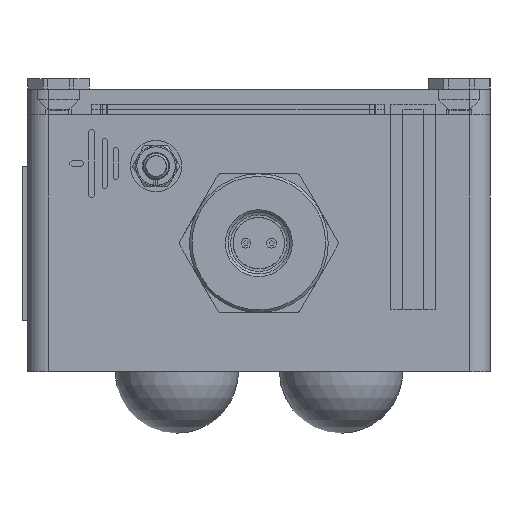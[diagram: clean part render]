
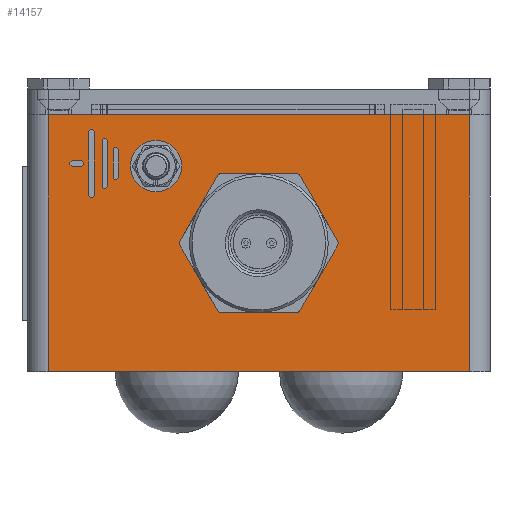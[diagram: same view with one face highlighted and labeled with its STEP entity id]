
A CAD part, left-side view. The second image highlights one B-rep face of the part: STEP entity #14157.
In plain terms, the highlighted planar face has unit normal (-1, 0, 0).
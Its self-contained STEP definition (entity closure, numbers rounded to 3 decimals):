
#653=LINE('',#21322,#1671);
#661=LINE('',#21408,#1679);
#664=LINE('',#21415,#1682);
#667=LINE('',#21427,#1685);
#671=LINE('',#21438,#1689);
#677=LINE('',#21458,#1695);
#680=LINE('',#21465,#1698);
#681=LINE('',#21469,#1699);
#686=LINE('',#21483,#1704);
#737=LINE('',#21710,#1755);
#747=LINE('',#21737,#1765);
#748=LINE('',#21739,#1766);
#1671=VECTOR('',#16797,82.);
#1679=VECTOR('',#16881,12.409);
#1682=VECTOR('',#16890,12.409);
#1685=VECTOR('',#16901,1.865);
#1689=VECTOR('',#16913,1.865);
#1695=VECTOR('',#16933,5.437);
#1698=VECTOR('',#16942,5.437);
#1699=VECTOR('',#16945,8.987);
#1704=VECTOR('',#16958,8.987);
#1755=VECTOR('',#17231,50.);
#1765=VECTOR('',#17261,50.);
#1766=VECTOR('',#17264,82.);
#3186=FACE_BOUND('',#5376,.T.);
#3187=FACE_BOUND('',#5377,.T.);
#3188=FACE_BOUND('',#5378,.T.);
#3189=FACE_BOUND('',#5379,.T.);
#3190=FACE_BOUND('',#5380,.T.);
#3191=FACE_BOUND('',#5381,.T.);
#3786=PLANE('',#15239);
#4381=FACE_OUTER_BOUND('',#5375,.T.);
#5375=EDGE_LOOP('',(#11002,#11003,#11004,#11005));
#5376=EDGE_LOOP('',(#11006,#11007,#11008,#11009));
#5377=EDGE_LOOP('',(#11010,#11011,#11012,#11013));
#5378=EDGE_LOOP('',(#11014,#11015,#11016,#11017));
#5379=EDGE_LOOP('',(#11018,#11019,#11020,#11021));
#5380=EDGE_LOOP('',(#11022));
#5381=EDGE_LOOP('',(#11023));
#6380=CIRCLE('',#15090,0.5);
#6381=CIRCLE('',#15093,0.5);
#6382=CIRCLE('',#15096,0.5);
#6384=CIRCLE('',#15100,0.5);
#6388=CIRCLE('',#15108,0.5);
#6389=CIRCLE('',#15111,0.5);
#6390=CIRCLE('',#15115,0.5);
#6392=CIRCLE('',#15119,0.5);
#6398=CIRCLE('',#15131,2.067);
#6399=CIRCLE('',#15133,10.5);
#7068=VERTEX_POINT('',#21320);
#7069=VERTEX_POINT('',#21321);
#7107=VERTEX_POINT('',#21401);
#7108=VERTEX_POINT('',#21402);
#7109=VERTEX_POINT('',#21407);
#7110=VERTEX_POINT('',#21411);
#7111=VERTEX_POINT('',#21417);
#7112=VERTEX_POINT('',#21418);
#7115=VERTEX_POINT('',#21426);
#7117=VERTEX_POINT('',#21432);
#7123=VERTEX_POINT('',#21451);
#7124=VERTEX_POINT('',#21452);
#7125=VERTEX_POINT('',#21457);
#7126=VERTEX_POINT('',#21461);
#7127=VERTEX_POINT('',#21467);
#7128=VERTEX_POINT('',#21468);
#7131=VERTEX_POINT('',#21476);
#7133=VERTEX_POINT('',#21482);
#7139=VERTEX_POINT('',#21504);
#7140=VERTEX_POINT('',#21507);
#7198=VERTEX_POINT('',#21709);
#7205=VERTEX_POINT('',#21735);
#8496=EDGE_CURVE('',#7068,#7069,#653,.T.);
#8535=EDGE_CURVE('',#7107,#7108,#6380,.T.);
#8538=EDGE_CURVE('',#7108,#7109,#661,.T.);
#8540=EDGE_CURVE('',#7109,#7110,#6381,.T.);
#8542=EDGE_CURVE('',#7110,#7107,#664,.T.);
#8543=EDGE_CURVE('',#7111,#7112,#6382,.T.);
#8547=EDGE_CURVE('',#7115,#7111,#667,.T.);
#8550=EDGE_CURVE('',#7117,#7115,#6384,.T.);
#8553=EDGE_CURVE('',#7112,#7117,#671,.T.);
#8559=EDGE_CURVE('',#7123,#7124,#6388,.T.);
#8562=EDGE_CURVE('',#7124,#7125,#677,.T.);
#8564=EDGE_CURVE('',#7125,#7126,#6389,.T.);
#8566=EDGE_CURVE('',#7126,#7123,#680,.T.);
#8567=EDGE_CURVE('',#7127,#7128,#681,.T.);
#8571=EDGE_CURVE('',#7131,#7127,#6390,.T.);
#8574=EDGE_CURVE('',#7133,#7131,#686,.T.);
#8577=EDGE_CURVE('',#7128,#7133,#6392,.T.);
#8583=EDGE_CURVE('',#7139,#7139,#6398,.T.);
#8584=EDGE_CURVE('',#7140,#7140,#6399,.T.);
#8666=EDGE_CURVE('',#7068,#7198,#737,.T.);
#8680=EDGE_CURVE('',#7069,#7205,#747,.T.);
#8681=EDGE_CURVE('',#7198,#7205,#748,.T.);
#11002=ORIENTED_EDGE('',*,*,#8496,.T.);
#11003=ORIENTED_EDGE('',*,*,#8680,.T.);
#11004=ORIENTED_EDGE('',*,*,#8681,.F.);
#11005=ORIENTED_EDGE('',*,*,#8666,.F.);
#11006=ORIENTED_EDGE('',*,*,#8535,.T.);
#11007=ORIENTED_EDGE('',*,*,#8538,.T.);
#11008=ORIENTED_EDGE('',*,*,#8540,.T.);
#11009=ORIENTED_EDGE('',*,*,#8542,.T.);
#11010=ORIENTED_EDGE('',*,*,#8543,.T.);
#11011=ORIENTED_EDGE('',*,*,#8553,.T.);
#11012=ORIENTED_EDGE('',*,*,#8550,.T.);
#11013=ORIENTED_EDGE('',*,*,#8547,.T.);
#11014=ORIENTED_EDGE('',*,*,#8559,.T.);
#11015=ORIENTED_EDGE('',*,*,#8562,.T.);
#11016=ORIENTED_EDGE('',*,*,#8564,.T.);
#11017=ORIENTED_EDGE('',*,*,#8566,.T.);
#11018=ORIENTED_EDGE('',*,*,#8567,.T.);
#11019=ORIENTED_EDGE('',*,*,#8577,.T.);
#11020=ORIENTED_EDGE('',*,*,#8574,.T.);
#11021=ORIENTED_EDGE('',*,*,#8571,.T.);
#11022=ORIENTED_EDGE('',*,*,#8583,.T.);
#11023=ORIENTED_EDGE('',*,*,#8584,.T.);
#14157=ADVANCED_FACE('',(#4381,#3186,#3187,#3188,#3189,#3190,#3191),#3786,
 .T.);
#15090=AXIS2_PLACEMENT_3D('',#21403,#16875,#16876);
#15093=AXIS2_PLACEMENT_3D('',#21412,#16885,#16886);
#15096=AXIS2_PLACEMENT_3D('',#21419,#16893,#16894);
#15100=AXIS2_PLACEMENT_3D('',#21433,#16906,#16907);
#15108=AXIS2_PLACEMENT_3D('',#21453,#16927,#16928);
#15111=AXIS2_PLACEMENT_3D('',#21462,#16937,#16938);
#15115=AXIS2_PLACEMENT_3D('',#21477,#16951,#16952);
#15119=AXIS2_PLACEMENT_3D('',#21488,#16963,#16964);
#15131=AXIS2_PLACEMENT_3D('',#21505,#16987,#16988);
#15133=AXIS2_PLACEMENT_3D('',#21508,#16991,#16992);
#15239=AXIS2_PLACEMENT_3D('',#21738,#17262,#17263);
#16797=DIRECTION('',(0.,-1.,0.));
#16875=DIRECTION('center_axis',(1.,0.,0.));
#16876=DIRECTION('ref_axis',(0.,-1.,0.));
#16881=DIRECTION('',(0.,0.,1.));
#16885=DIRECTION('center_axis',(1.,0.,0.));
#16886=DIRECTION('ref_axis',(0.,1.,0.));
#16890=DIRECTION('',(0.,0.,-1.));
#16893=DIRECTION('center_axis',(1.,0.,0.));
#16894=DIRECTION('ref_axis',(0.,0.,1.));
#16901=DIRECTION('',(0.,-1.,0.));
#16906=DIRECTION('center_axis',(1.,0.,0.));
#16907=DIRECTION('ref_axis',(0.,0.,-1.));
#16913=DIRECTION('',(0.,1.,0.));
#16927=DIRECTION('center_axis',(1.,0.,0.));
#16928=DIRECTION('ref_axis',(0.,1.,0.));
#16933=DIRECTION('',(0.,0.,1.));
#16937=DIRECTION('center_axis',(1.,0.,0.));
#16938=DIRECTION('ref_axis',(0.,-1.,0.));
#16942=DIRECTION('',(0.,0.,-1.));
#16945=DIRECTION('',(0.,0.,-1.));
#16951=DIRECTION('center_axis',(1.,0.,0.));
#16952=DIRECTION('ref_axis',(0.,-1.,0.));
#16958=DIRECTION('',(0.,0.,1.));
#16963=DIRECTION('center_axis',(1.,0.,0.));
#16964=DIRECTION('ref_axis',(0.,1.,0.));
#16987=DIRECTION('center_axis',(1.,0.,0.));
#16988=DIRECTION('ref_axis',(0.,0.,1.));
#16991=DIRECTION('center_axis',(1.,0.,0.));
#16992=DIRECTION('ref_axis',(0.,0.,-1.));
#17231=DIRECTION('',(0.,0.,1.));
#17261=DIRECTION('',(0.,0.,1.));
#17262=DIRECTION('center_axis',(-1.,0.,0.));
#17263=DIRECTION('ref_axis',(0.,-1.,0.));
#17264=DIRECTION('',(0.,-1.,0.));
#21320=CARTESIAN_POINT('',(-57.5,41.,0.));
#21321=CARTESIAN_POINT('',(-57.5,-41.,0.));
#21322=CARTESIAN_POINT('',(-57.5,41.,0.));
#21401=CARTESIAN_POINT('',(-57.5,32.077,34.295));
#21402=CARTESIAN_POINT('',(-57.5,33.077,34.295));
#21403=CARTESIAN_POINT('Origin',(-57.5,32.577,34.295));
#21407=CARTESIAN_POINT('',(-57.5,33.077,46.705));
#21408=CARTESIAN_POINT('',(-57.5,33.077,17.148));
#21411=CARTESIAN_POINT('',(-57.5,32.077,46.705));
#21412=CARTESIAN_POINT('Origin',(-57.5,32.577,46.705));
#21415=CARTESIAN_POINT('',(-57.5,32.077,23.352));
#21417=CARTESIAN_POINT('',(-57.5,34.473,41.));
#21418=CARTESIAN_POINT('',(-57.5,34.473,40.));
#21419=CARTESIAN_POINT('Origin',(-57.5,34.473,40.5));
#21426=CARTESIAN_POINT('',(-57.5,36.338,41.));
#21427=CARTESIAN_POINT('',(-57.5,38.669,41.));
#21432=CARTESIAN_POINT('',(-57.5,36.338,40.));
#21433=CARTESIAN_POINT('Origin',(-57.5,36.338,40.5));
#21438=CARTESIAN_POINT('',(-57.5,37.736,40.));
#21451=CARTESIAN_POINT('',(-57.5,27.377,37.782));
#21452=CARTESIAN_POINT('',(-57.5,28.377,37.782));
#21453=CARTESIAN_POINT('Origin',(-57.5,27.877,37.782));
#21457=CARTESIAN_POINT('',(-57.5,28.377,43.218));
#21458=CARTESIAN_POINT('',(-57.5,28.377,18.891));
#21461=CARTESIAN_POINT('',(-57.5,27.377,43.218));
#21462=CARTESIAN_POINT('Origin',(-57.5,27.877,43.218));
#21465=CARTESIAN_POINT('',(-57.5,27.377,21.609));
#21467=CARTESIAN_POINT('',(-57.5,29.52,44.994));
#21468=CARTESIAN_POINT('',(-57.5,29.52,36.006));
#21469=CARTESIAN_POINT('',(-57.5,29.52,22.497));
#21476=CARTESIAN_POINT('',(-57.5,30.52,44.994));
#21477=CARTESIAN_POINT('Origin',(-57.5,30.02,44.994));
#21482=CARTESIAN_POINT('',(-57.5,30.52,36.006));
#21483=CARTESIAN_POINT('',(-57.5,30.52,18.003));
#21488=CARTESIAN_POINT('Origin',(-57.5,30.02,36.006));
#21504=CARTESIAN_POINT('',(-57.5,20.,42.067));
#21505=CARTESIAN_POINT('Origin',(-57.5,20.,40.));
#21507=CARTESIAN_POINT('',(-57.5,0.,35.5));
#21508=CARTESIAN_POINT('Origin',(-57.5,0.,25.));
#21709=CARTESIAN_POINT('',(-57.5,41.,50.));
#21710=CARTESIAN_POINT('',(-57.5,41.,0.));
#21735=CARTESIAN_POINT('',(-57.5,-41.,50.));
#21737=CARTESIAN_POINT('',(-57.5,-41.,0.));
#21738=CARTESIAN_POINT('Origin',(-57.5,41.,0.));
#21739=CARTESIAN_POINT('',(-57.5,41.,50.));
